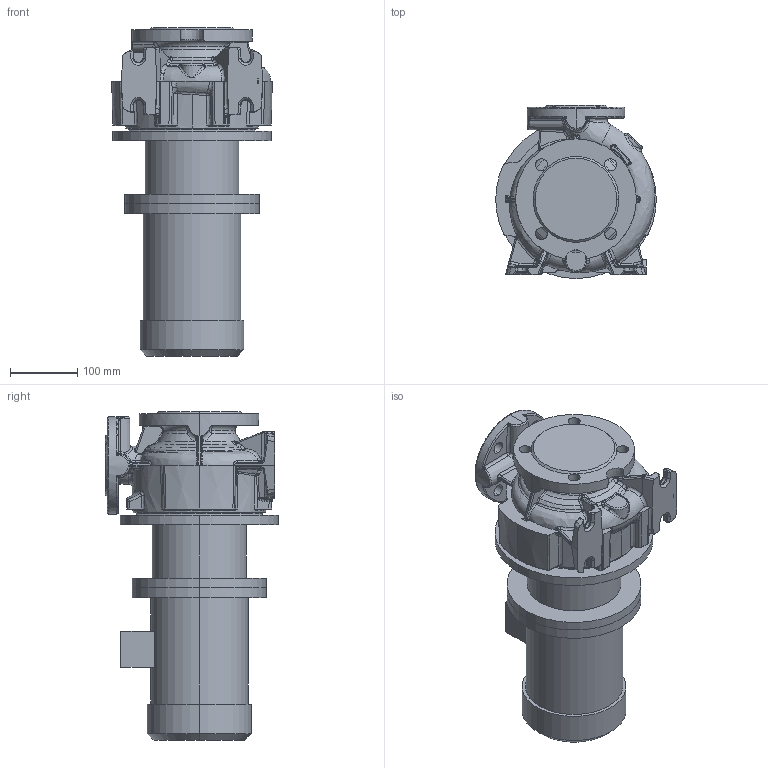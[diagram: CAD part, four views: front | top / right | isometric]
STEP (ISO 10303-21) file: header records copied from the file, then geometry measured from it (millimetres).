
FILE_DESCRIPTION (( 'STEP AP214' ), '1' );
FILE_NAME ('KRM 65-40-125-4-0,55.STEP', '2026-04-24T07:49:33', ( '' ), ( '' ), 'SwSTEP 2.0', 'SolidWorks 2016', '' );
FILE_SCHEMA (( 'AUTOMOTIVE_DESIGN' ));
Length unit declared in the file: millimetre
Products named in the file (1): KRM 65-40-125-4-0,55
Bounding box: 239.46 x 258 x 489.8 mm (x, y, z)
Volume: 11881190.6 mm3; surface area: 724723.4 mm2
Topology: 5 solids, 5 shells, 924 faces, 2194 edges, 1266 vertices
Faces by surface type: bspline 403, cylinder 205, plane 142, torus 70, sphere 54, cone 50
Entity records: 69024 total; most frequent: CARTESIAN_POINT 40848, ORIENTED_EDGE 4324, DIRECTION 3072, EDGE_CURVE 2162, AXIS2_PLACEMENT_3D 1332, VERTEX_POINT 1262, EDGE_LOOP 954, UNCERTAINTY_MEASURE_WITH_UNIT 931
